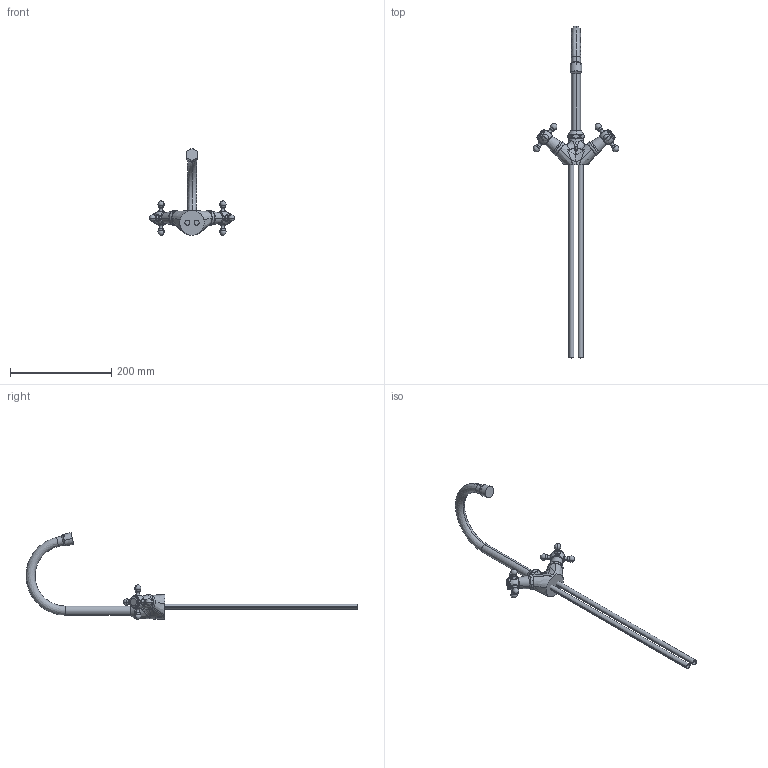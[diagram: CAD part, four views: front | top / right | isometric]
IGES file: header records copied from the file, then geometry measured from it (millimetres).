
Start section:  PTC IGES file: 37020_web.igs
Global section: file name: 37020_web.igs; native system: Creo Parametric by PTC Inc.; preprocessor: 2017380; author: jaj; organization: Unknown; date: 20181023.143428; units: millimetre
Bounding box: 168.75 x 656.74 x 171.29 mm (x, y, z)
Surface area: 103810.1 mm2 (no closed solid volume)
Topology: 0 solids, 0 shells, 231 faces, 1148 edges, 1186 vertices
Faces by surface type: revolution 154, bspline 77
